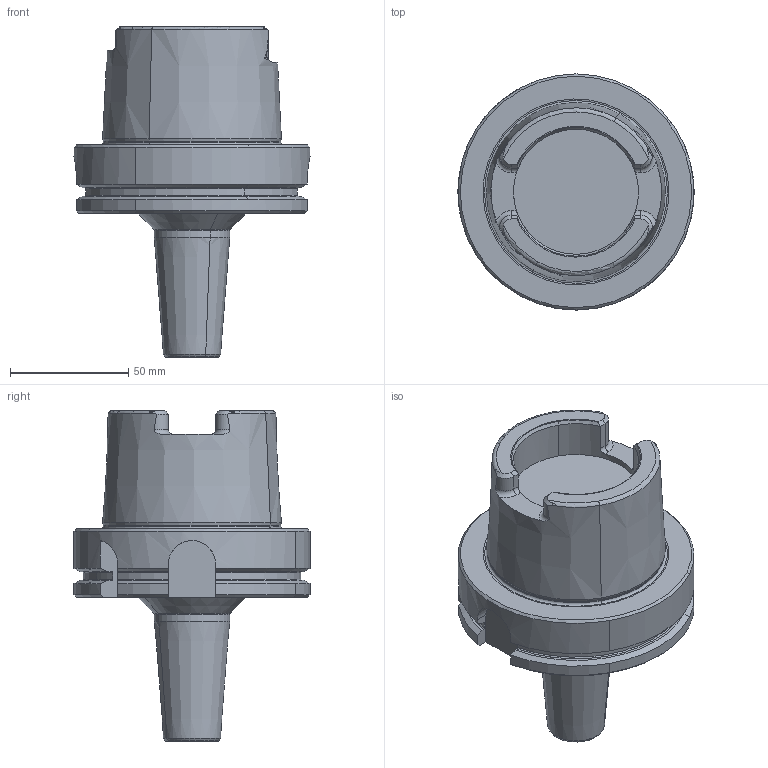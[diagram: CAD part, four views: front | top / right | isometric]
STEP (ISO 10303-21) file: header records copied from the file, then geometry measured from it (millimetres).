
FILE_DESCRIPTION(('CATIA V5 STEP','CAx-IF Rec.Pracs.--- Model Styling and Organization---1.2---2011-12-15'),'2;1');
FILE_NAME('\\nas01\drv1\utils\eitdev\rte\eit\transmagicconvert\db\out\4504211 L.stp','2014-04-02T12:30:39+00:00',('none'),('none'),'CATIA Version 5 Release 21 SP 5 (IN-10)','CATIA V5 STEP AP214','none');
FILE_SCHEMA(('AUTOMOTIVE_DESIGN { 1 0 10303 214 1 1 1 1 }'));
Length unit declared in the file: millimetre
Products named in the file (1): 60966945_0 Holder-Tool HSK A 100 SRKIN 10X 90
Bounding box: 100 x 100 x 140 mm (x, y, z)
Volume: 427331.5 mm3; surface area: 43919.1 mm2
Topology: 1 solids, 1 shells, 139 faces, 375 edges, 241 vertices
Faces by surface type: plane 37, cone 37, cylinder 33, torus 32
Entity records: 4421 total; most frequent: CARTESIAN_POINT 1297, ORIENTED_EDGE 750, DIRECTION 466, EDGE_CURVE 375, AXIS2_PLACEMENT_3D 244, VERTEX_POINT 241, CIRCLE 161, EDGE_LOOP 142
